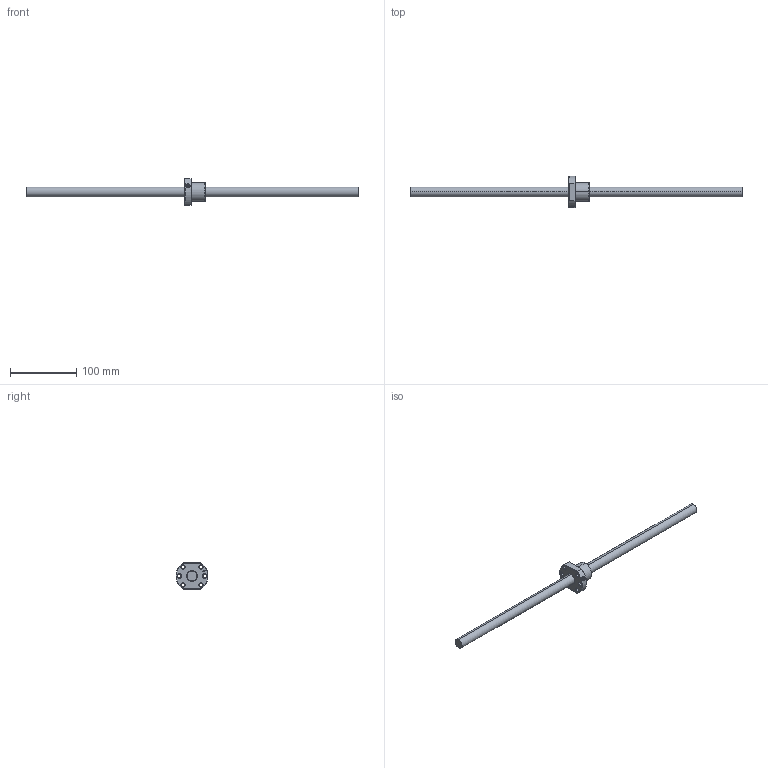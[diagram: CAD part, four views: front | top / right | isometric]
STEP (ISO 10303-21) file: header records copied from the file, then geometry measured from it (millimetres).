
FILE_DESCRIPTION (( 'STEP AP203' ), '1' );
FILE_NAME ('SFB1605-3.8.STEP', '2024-08-13T02:57:29', ( '' ), ( '' ), 'SwSTEP 2.0', 'SolidWorks 2022', '' );
FILE_SCHEMA (( 'CONFIG_CONTROL_DESIGN' ));
Length unit declared in the file: millimetre
Products named in the file (1): SFB1605-3.8
Bounding box: 500 x 48 x 40 mm (x, y, z)
Volume: 109521.9 mm3; surface area: 32576.5 mm2
Topology: 2 solids, 2 shells, 85 faces, 210 edges, 130 vertices
Faces by surface type: cylinder 35, cone 26, plane 12, bspline 6, torus 6
Entity records: 5927 total; most frequent: CARTESIAN_POINT 3888, ORIENTED_EDGE 420, DIRECTION 403, EDGE_CURVE 210, AXIS2_PLACEMENT_3D 164, VERTEX_POINT 130, EDGE_LOOP 102, FACE_OUTER_BOUND 85
